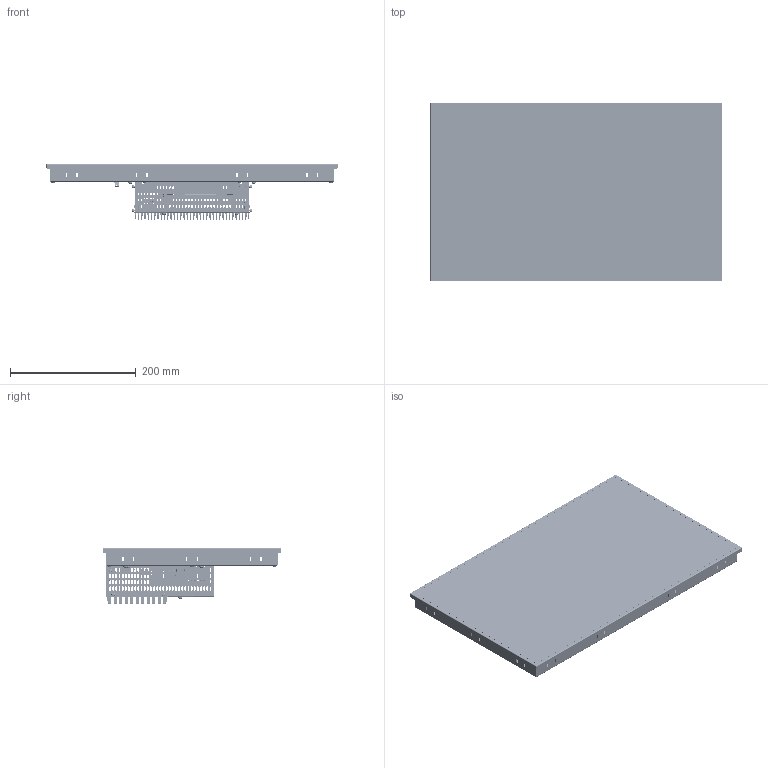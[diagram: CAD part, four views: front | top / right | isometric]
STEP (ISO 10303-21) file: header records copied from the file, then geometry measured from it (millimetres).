
FILE_DESCRIPTION (( 'STEP AP214' ), '1' );
FILE_NAME ('ETT1844 (01-230-1844) 20200807.STEP', '2020-08-07T12:16:13', ( 'Windows-Benutzer' ), ( '' ), 'SwSTEP 2.0', 'SolidWorks 2018', '' );
FILE_SCHEMA (( 'AUTOMOTIVE_DESIGN' ));
Length unit declared in the file: millimetre
Products named in the file (1): ETT1844 (01-230-1844) 20200807
Bounding box: 464 x 285 x 89 mm (x, y, z)
Surface area: 1064940.4 mm2 (no closed solid volume)
Topology: 0 solids, 131 shells, 15181 faces, 41948 edges, 27462 vertices
Faces by surface type: plane 9021, cylinder 5305, cone 501, bspline 220, torus 102, sphere 32
Full cylindrical faces by diameter (mm): 0.2 x1
Entity records: 668062 total; most frequent: CARTESIAN_POINT 108200, ORIENTED_EDGE 83502, DIRECTION 78429, EDGE_CURVE 41910, VECTOR 28417, LINE 28417, VERTEX_POINT 27484, AXIS2_PLACEMENT_3D 25006
